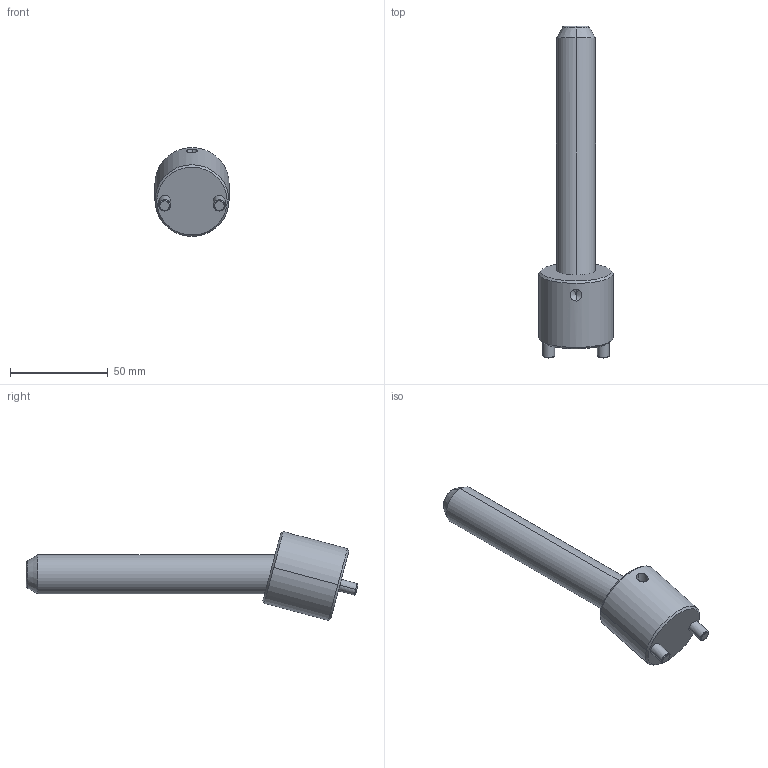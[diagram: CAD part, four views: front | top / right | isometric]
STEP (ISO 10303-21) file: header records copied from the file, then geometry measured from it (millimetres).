
FILE_DESCRIPTION(('CATIA V5 STEP Exchange'),'2;1');
FILE_NAME('C:\Users\Raffaele\Desktop\3D BOLEX\3D FILES CF BOLEX\19-INCLINED ASSEMBLY REF_CI\CI1820125.stp','2019-06-24T07:44:30+00:00',('none'),('none'),'CATIA Version 5 Release 20 GA (IN-10)','CATIA V5 STEP AP203','none');
FILE_SCHEMA(('CONFIG_CONTROL_DESIGN'));
Length unit declared in the file: millimetre
Products named in the file (1): CI1820125
Assembly tree (2 placements, depth 2):
  CI1820125
    #58
    #575
Bounding box: 38 x 170.15 x 45.51 mm (x, y, z)
Volume: 79385.1 mm3; surface area: 19004.3 mm2
Topology: 2 solids, 2 shells, 39 faces, 82 edges, 47 vertices
Faces by surface type: cone 14, cylinder 14, plane 7, torus 4
Entity records: 1497 total; most frequent: CARTESIAN_POINT 638, ORIENTED_EDGE 160, DIRECTION 145, EDGE_CURVE 80, AXIS2_PLACEMENT_3D 72, VERTEX_POINT 47, EDGE_LOOP 43, ADVANCED_FACE 39
